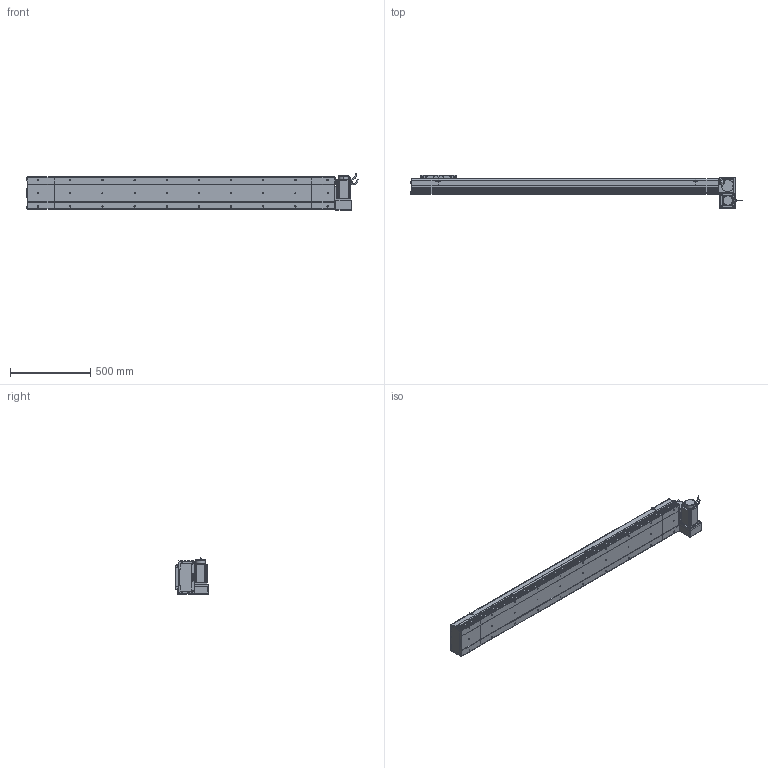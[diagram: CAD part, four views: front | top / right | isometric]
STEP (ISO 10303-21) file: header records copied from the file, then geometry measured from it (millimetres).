
FILE_DESCRIPTION (( 'STEP AP214' ), '1' );
FILE_NAME ('D20 CBH RU S1600.STEP', '2010-06-30T09:34:22', ( 'Conseil Régional Haute-Normandie' ), ( 'Conseil Régional Haute-Normandie' ), 'SwSTEP 2.0', 'SolidWorks 2010', '' );
FILE_SCHEMA (( 'AUTOMOTIVE_DESIGN' ));
Length unit declared in the file: millimetre
Products named in the file (31): Corp Tail D20 RU_Default; Rondelle Cache D20 RU_Default; Cache Support Moteur RU_Default; Plaque De Serrage D20 RU_Default; Moteur motionking 90BLDC125A-640; Couvercle RU_Default; Glissiere_Default; Chariot D20_Default; Plaque De Serrage D20_Default; Plaque de Bout Tail D20_Default; Couvercle_Default; vis M5 L15_Default; Support Chariot D20_Default; Corp Tail D20_Default; Tail D20_Default; Couvercle S1600_Default; Corp S1600_Default; Corp D20 S1600_Default; vis M5 L47_Default; ecrou_Default; corps 90BLDC125A-640; avant 90BLDC125A-640; codeur 90BLDC125-640; vis M5 L30_Default; Conecteur_Default; Conecteur2_Default; D20 CBH RU S1600; Support moteur RU_Default; Plaque de Bout Head D20 RU_Default; Head RU_Default
Assembly tree (66 placements, depth 4):
  D20 CBH RU S1600
    Chariot D20_Default
      vis M5 L15_Default  x8
      Support Chariot D20_Default
      Glissiere_Default
      Chariot D20_Default
    Corp D20 S1600_Default
      Corp S1600_Default
      Couvercle S1600_Default
    Head RU_Default
      vis M5 L47_Default  x4
      Corp Tail D20 RU_Default
      ecrou_Default  x4
      Plaque De Serrage D20 RU_Default
      vis M5 L15_Default  x12
      vis M5 L30_Default  x4
      Rondelle Cache D20 RU_Default  x3
      Support moteur RU_Default
      Moteur motionking 90BLDC125A-640
        corps 90BLDC125A-640
        codeur 90BLDC125-640
        Conecteur_Default
        Conecteur2_Default
        avant 90BLDC125A-640
      Cache Support Moteur RU_Default
      Plaque de Bout Head D20 RU_Default
      Couvercle RU_Default
    Tail D20_Default
      vis M5 L15_Default  x6
      Plaque De Serrage D20_Default
      Corp Tail D20_Default
      Plaque de Bout Tail D20_Default
      Couvercle_Default
Bounding box: 2064.45 x 209 x 229.7 mm (x, y, z)
Volume: 14396890.2 mm3; surface area: 2842752.6 mm2
Topology: 103 solids, 103 shells, 3751 faces, 9362 edges, 6082 vertices
Faces by surface type: plane 2090, bspline 806, cylinder 692, torus 91, cone 68, sphere 4
Entity records: 158926 total; most frequent: CARTESIAN_POINT 82233, ORIENTED_EDGE 15192, DIRECTION 11514, EDGE_CURVE 7596, VERTEX_POINT 5026, VECTOR 4924, LINE 4924, AXIS2_PLACEMENT_3D 3295
